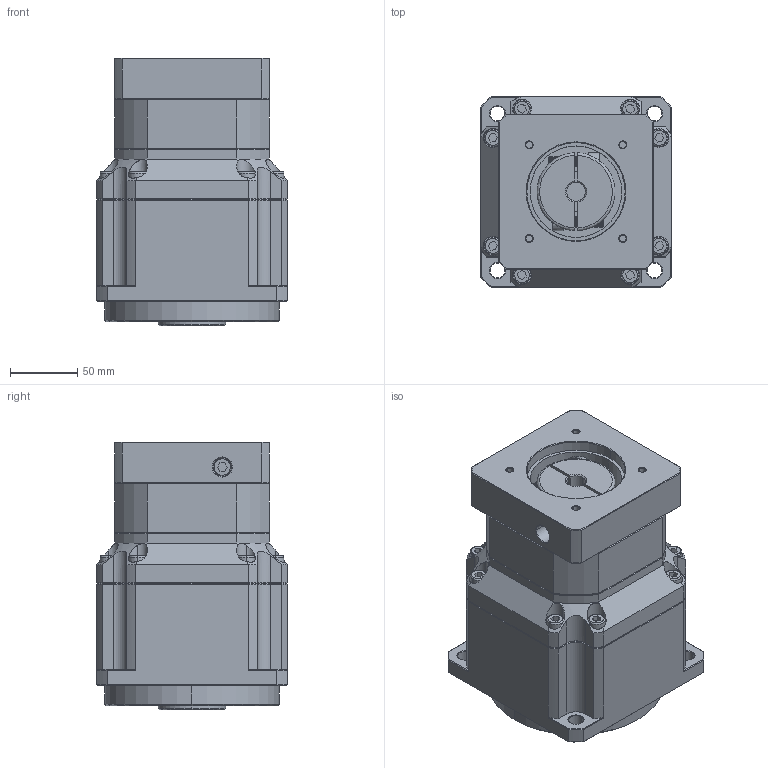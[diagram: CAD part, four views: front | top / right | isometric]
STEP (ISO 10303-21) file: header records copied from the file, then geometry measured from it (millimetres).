
FILE_DESCRIPTION (( 'STEP AP214' ), '1' );
FILE_NAME ('ZPB142-K35-L2-P1-14-73-69.6X69.6-M6.step', '2024-07-05T00:10:08', ( 'Windows 蚚誧' ), ( 'Organization' ), 'SwSTEP 2.0', 'SolidWorks 2016', '' );
FILE_SCHEMA (( 'AUTOMOTIVE_DESIGN' ));
Length unit declared in the file: millimetre
Products named in the file (1): ZPB142-K35-L2-P1-14-73-69.6X69.6-M6
Bounding box: 142 x 142 x 199 mm (x, y, z)
Surface area: 172905.4 mm2 (no closed solid volume)
Topology: 0 solids, 2 shells, 1752 faces, 4708 edges, 3054 vertices
Faces by surface type: plane 1017, bspline 390, cylinder 186, cone 159
Entity records: 88051 total; most frequent: CARTESIAN_POINT 39845, ORIENTED_EDGE 9402, DIRECTION 6931, EDGE_CURVE 4708, LINE 3161, VECTOR 3161, VERTEX_POINT 3054, AXIS2_PLACEMENT_3D 1885
